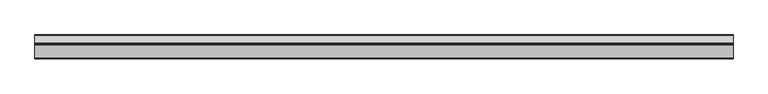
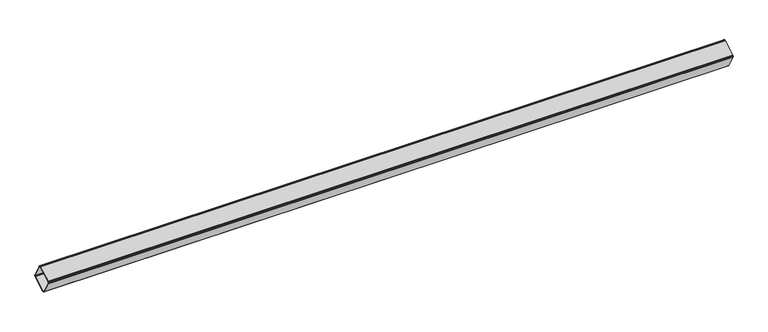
"""IFC4 building model written with IfcOpenShell, lengths in millimetres: beam geometry, Buton 136212 : Buton 136212."""

from ifc_helpers import new_model, si_unit, frame, origin, place, context, project, spatial, polyline, outline, extrude, source, transform, mapped, element, save


def beam_90fe456c(model_context):
    return source(origin(), model_context, "Body", "SweptSolid", [
        extrude(outline(polyline([(-36513.5277892, 9379.5054949), (-36440.153053, 9420.3974024), (-36437.8030118, 9421.2588385), (-36435.3017914, 9421.3519102), (-36432.8942286, 9420.6675071), (-36430.8159926, 9419.2726233), (-36429.2705155, 9417.3037996), (-36388.3786081, 9343.9290635), (-36387.517172, 9341.5790223), (-36387.4241002, 9339.0778018), (-36388.1085034, 9336.6702391), (-36389.5033872, 9334.5920031), (-36391.4722108, 9333.046526), (-36464.846947, 9292.1546186), (-36467.1969882, 9291.2931825), (-36469.6982086, 9291.2001107), (-36472.1057714, 9291.8845138), (-36474.1840074, 9293.2793977), (-36475.7294845, 9295.2482213), (-36516.6213919, 9368.6229575), (-36517.482828, 9370.9729987), (-36517.5758998, 9373.4742191), (-36516.8914966, 9375.8817818), (-36515.4966128, 9377.9600178), (-36513.5277892, 9379.5054949)]), holes=[polyline([(-36513.1273569, 9370.5701911), (-36472.2354494, 9297.195455), (-36471.4627109, 9296.2110432), (-36470.4235929, 9295.5136012), (-36469.2198115, 9295.1713997), (-36467.9692013, 9295.2179356), (-36466.7941807, 9295.6486536), (-36393.4194445, 9336.540561), (-36392.4350327, 9337.3132996), (-36391.7375908, 9338.3524176), (-36391.3953892, 9339.556199), (-36391.4419251, 9340.8068092), (-36391.8726431, 9341.9818298), (-36432.7645506, 9415.356566), (-36433.5372891, 9416.3409778), (-36434.5764071, 9417.0384197), (-36435.7801885, 9417.3806212), (-36437.0307987, 9417.3340854), (-36438.2058193, 9416.9033673), (-36511.5805555, 9376.0114599), (-36512.5649673, 9375.2387213), (-36513.2624092, 9374.1996033), (-36513.6046108, 9372.995822), (-36513.5580749, 9371.7452118), (-36513.1273569, 9370.5701911)])]), frame((3762.4999999, 0.0, 0.0), z_axis=(1.0, 0.0, 0.0), x_axis=(0.0, 1.0, 0.0)), (0.0, 0.0, 1.0), 3792.5),
    ])


if __name__ == "__main__":
    model = new_model("IFC4")
    model_context = context("Model", 3, world=origin())
    ifc_project = project(units=[si_unit("LENGTHUNIT", "METRE", prefix="MILLI")], contexts=[model_context])
    site = spatial("IfcSite", under=ifc_project)
    building = spatial("IfcBuilding", under=site)
    placement = place(None, origin())
    beam_shape = beam_90fe456c(model_context)
    element("IfcBeam", 1, ObjectType="Buton 136212 : Buton 136212", at=placement, inside=building, context=model_context, shape_type="MappedRepresentation", body=[
        mapped(beam_shape, transform((0.0, 0.0, 0.0), x_axis=(1.0, 0.0, 0.0), y_axis=(0.0, 1.0, 0.0), z_axis=(0.0, 0.0, 1.0))),
    ])
    save(model, "model.ifc")
